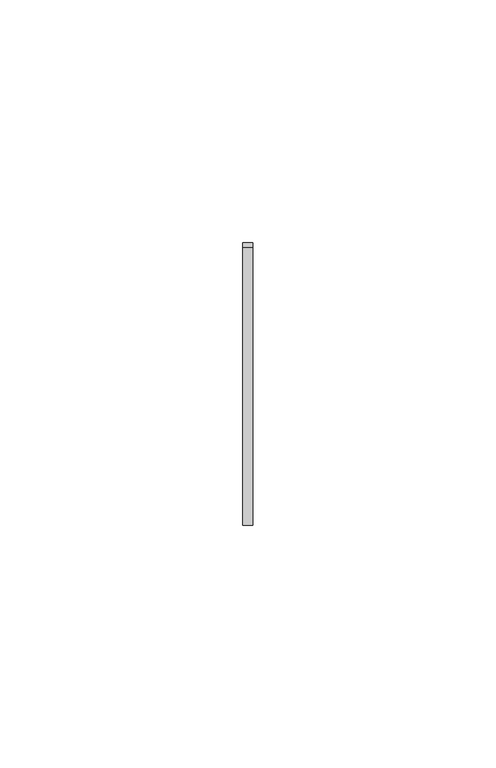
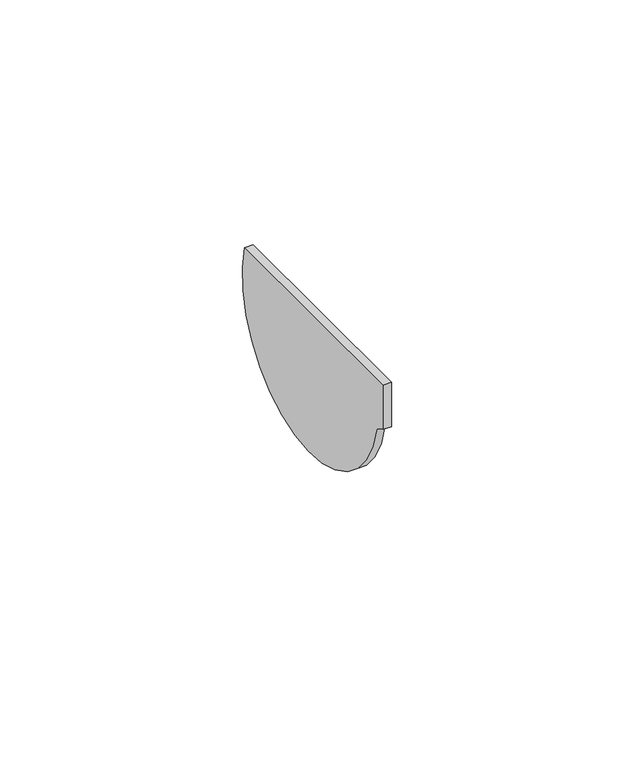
"""IFC4 building model written with IfcOpenShell, lengths in millimetres: proxy geometry, Odbojnik przyścienny R50 : Odbojnik przyścienny R50."""

from ifc_helpers import new_model, si_unit, point, frame, frame_2d, origin, place, context, project, spatial, polyline, circle_curve, trimmed, segment, composite_curve, outline, extrude, source, transform, mapped, element, save


def generic_models_704fdf56(model_context):
    return source(origin(), model_context, "Body", "SweptSolid", [
        extrude(outline(composite_curve([segment(trimmed(circle_curve(frame_2d((-28.3405193, -0.9266588)), 28.0), [point((-1.3086502, 6.3725229))], [point((-55.8514453, -6.1371239))], False, "CARTESIAN"), True, "CONTINUOUS"), segment(polyline([(-55.8514453, -6.1371239), (-58.4415442, -4.7599435), (-58.4415442, 6.3725229), (-1.3086502, 6.3725229)]), True, "CONTINUOUS")], self_intersect=False)), frame((-3.0, 0.0, 0.0), z_axis=(1.0, 0.0, 0.0), x_axis=(0.0, 1.0, 0.0)), (0.0, 0.0, 1.0), 2.0),
    ])


if __name__ == "__main__":
    model = new_model("IFC4")
    model_context = context("Model", 3, world=origin())
    ifc_project = project(units=[si_unit("LENGTHUNIT", "METRE", prefix="MILLI")], contexts=[model_context])
    site = spatial("IfcSite", under=ifc_project)
    building = spatial("IfcBuilding", under=site)
    placement = place(None, origin())
    generic_models_shape = generic_models_704fdf56(model_context)
    element("IfcBuildingElementProxy", 1, Name="Odbojnik przyścienny R50 : Odbojnik przyścienny R50", ObjectType="Odbojnik przyścienny R50 : Odbojnik przyścienny R50", at=placement, inside=building, context=model_context, shape_type="MappedRepresentation", body=[
        mapped(generic_models_shape, transform((0.0, 0.0, 0.0), x_axis=(1.0, 0.0, 0.0), y_axis=(0.0, 1.0, 0.0), z_axis=(0.0, 0.0, 1.0))),
    ])
    save(model, "model.ifc")
